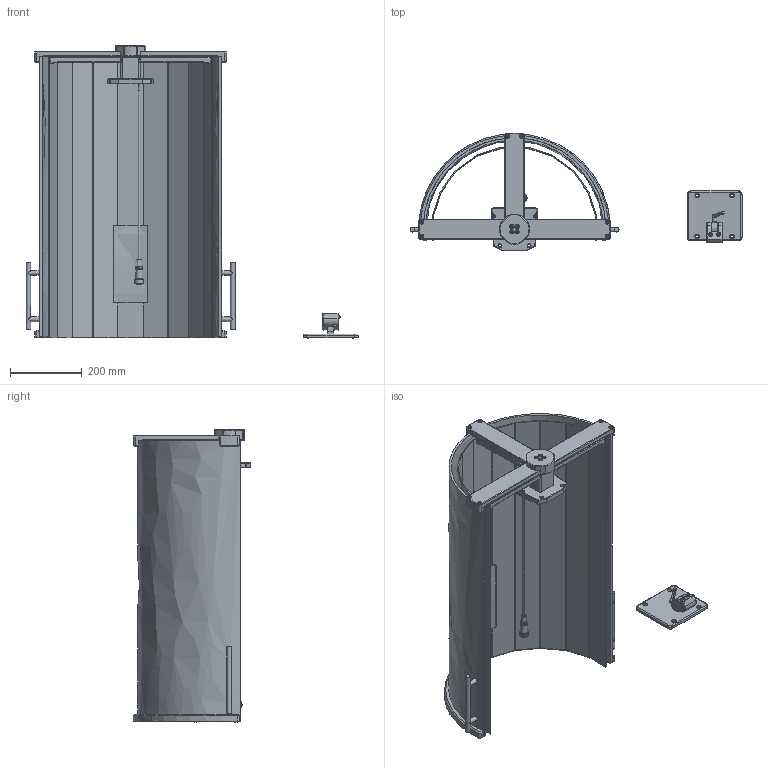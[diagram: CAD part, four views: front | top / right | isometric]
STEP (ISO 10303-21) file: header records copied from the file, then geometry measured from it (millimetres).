
FILE_DESCRIPTION((''),'2;1');
FILE_NAME('F:\CAD files\Itr\3D MARKETING MODELS\ACCESSORIES\ESM303-003\ESM303-003.stp','2017-04-24T15:04:31',('mlampen'),(''),'Autodesk Inventor 2010','Autodesk Inventor 2010','');
FILE_SCHEMA(('AUTOMOTIVE_DESIGN { 1 0 10303 214 1 1 1 1 }'));
Length unit declared in the file: inch
Products named in the file (5): Assembly1; Part2; Part4; Part6; Part8
Assembly tree (4 placements, depth 2):
  Assembly1
    Part2
    Part4
    Part6
    Part8
Bounding box: 922.92 x 326.14 x 813.04 mm (x, y, z)
Volume: 7877438.3 mm3; surface area: 2972424.4 mm2
Topology: 8 solids, 8 shells, 2068 faces, 4425 edges, 2558 vertices
Faces by surface type: plane 821, cone 538, cylinder 418, bspline 159, torus 102, sphere 30
Full cylindrical faces by diameter (mm): 2.845 x4, 3.505 x6, 4 x2, 4.47 x4, 4.785 x1, 4.943 x1, 5.08 x1, 5.085 x1, 5.131 x2, 5.385 x1, 5.552 x1, 5.577 x1, 5.596 x1, 5.66 x1, 5.966 x1, 6.07 x1, 6.271 x1, 6.477 x4, 6.655 x2, 6.731 x1, 7.798 x6, 7.938 x1, 8.382 x2, 8.636 x4, 9.119 x6, 9.525 x1, 9.8 x1, 10.16 x2, 10.439 x47, 10.795 x3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
Entity records: 56327 total; most frequent: CARTESIAN_POINT 15070, DIRECTION 8877, ORIENTED_EDGE 7742, EDGE_CURVE 3871, AXIS2_PLACEMENT_3D 3610, EDGE_LOOP 2711, VERTEX_POINT 2406, FACE_OUTER_BOUND 2068
